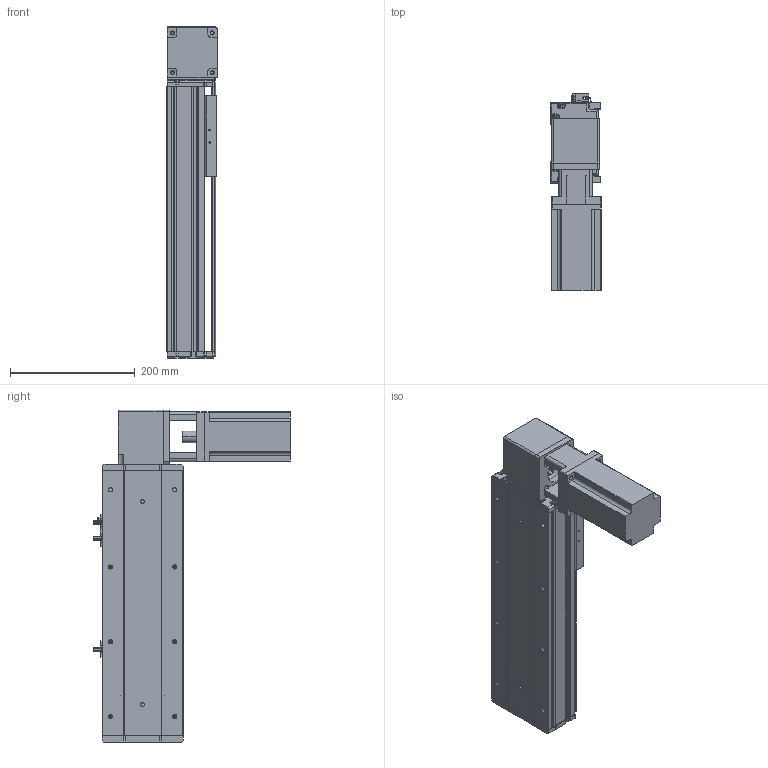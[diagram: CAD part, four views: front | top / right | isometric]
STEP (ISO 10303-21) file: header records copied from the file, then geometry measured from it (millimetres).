
FILE_DESCRIPTION (( 'STEP AP214' ), '1' );
FILE_NAME ('KSD130B-S200-MLT-CM.STEP', '2019-09-23T02:09:59', ( '微软用户' ), ( '微软中国' ), 'SwSTEP 2.0', 'SolidWorks 2014', '' );
FILE_SCHEMA (( 'AUTOMOTIVE_DESIGN' ));
Length unit declared in the file: millimetre
Products named in the file (12): 台达ECMA－C20807AS伺服电机; 130宽马达安装板1-带电机座750W（1）; 覜茼え100遵圉猾敕; U倰嫖萇EEㄜSX672; 130宽安装板同步带带电机座750W; 130宽盖板半封闭同步带-200行程; 130宽马达安装板同步带左-改; 130宽马达安装板同步带半封闭; 130宽同步带安装座半封闭; 130宽端盖同步带半封闭; 130宽底板半封闭同步带-200行程; KSD130B-S200-MLT-CM
Assembly tree (13 placements, depth 2):
  KSD130B-S200-MLT-CM
    130宽底板半封闭同步带-200行程
    130宽端盖同步带半封闭
    130宽同步带安装座半封闭
    130宽马达安装板同步带半封闭
    130宽马达安装板同步带左-改
    130宽盖板半封闭同步带-200行程
    130宽安装板同步带带电机座750W
    U倰嫖萇EEㄜSX672  x3
    覜茼え100遵圉猾敕
    130宽马达安装板1-带电机座750W（1）
    台达ECMA－C20807AS伺服电机
Bounding box: 81 x 316 x 533 mm (x, y, z)
Volume: 2805389 mm3; surface area: 650627.7 mm2
Topology: 14 solids, 14 shells, 1327 faces, 3692 edges, 2381 vertices
Faces by surface type: cylinder 617, plane 581, cone 129
Entity records: 41607 total; most frequent: CARTESIAN_POINT 7267, DIRECTION 6422, ORIENTED_EDGE 6124, EDGE_CURVE 3062, AXIS2_PLACEMENT_3D 2328, VERTEX_POINT 2005, LINE 1766, VECTOR 1766
